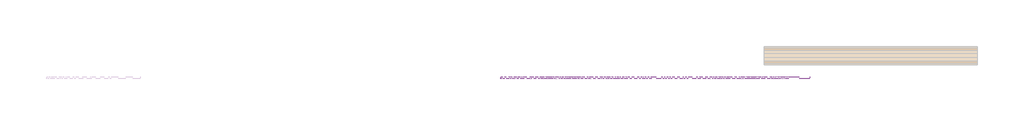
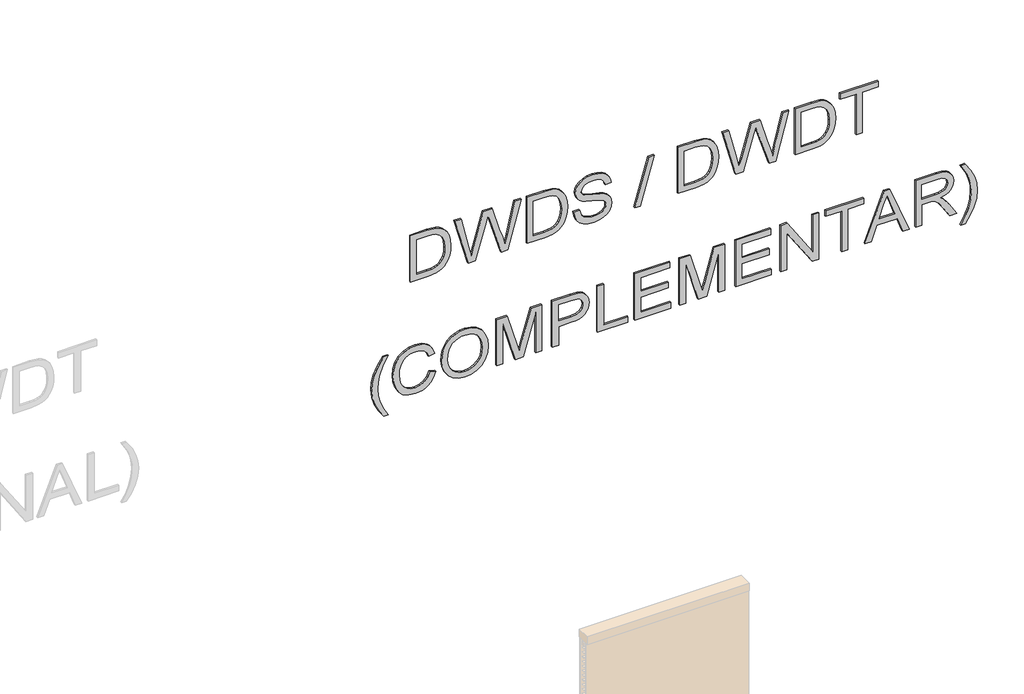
# One storey, part 7 of 7: 1 proxy.
"""IFC4 building model written with IfcOpenShell, lengths in millimetres."""

from ifc_helpers import new_model, si_unit, frame, origin, place, context, project, spatial, polyline, outline, extrude, element, save

model = new_model("IFC4")

# Units and contexts
model_context = context("Model", 3, world=origin())
ifc_project = project(units=[si_unit("LENGTHUNIT", "METRE", prefix="MILLI")], contexts=[model_context])

# Site, building, storey
site = spatial("IfcSite", under=ifc_project)
building = spatial("IfcBuilding", under=site)
storey = spatial("IfcBuildingStorey", under=building, Name="02 - Marelli - Planta Baixa - Painel Duplo", Elevation=-12000.0)

# Proxy
placement = place(None, origin())
element("IfcBuildingElementProxy", 1, Name="300mm Arial", ObjectType="300mm Arial", at=placement, inside=storey, context=model_context, shape_type="SweptSolid", body=[
    extrude(outline(polyline([(-6049.0625952, 52245.7423947), (-6049.0625952, 52354.7090417), (-6043.9122473, 52403.1591004), (-6037.5570858, 52422.7028314), (-6028.7922972, 52439.1747477), (-6016.9740882, 52453.5221456), (-6001.458665, 52466.692321), (-5981.8045694, 52478.133451), (-5957.570343, 52487.2937127), (-5929.1054736, 52493.3085833), (-5896.7594492, 52495.3135402), (-5858.6836627, 52492.3520901), (-5825.0960365, 52483.46774), (-5796.5483937, 52468.6237015), (-5773.5925572, 52447.7831864), (-5760.4039877, 52427.5128885), (-5752.0346723, 52403.4901942), (-5747.6936647, 52349.7058465), (-5747.6936647, 52245.7423947), (-6049.0625952, 52245.7423947)]), holes=[polyline([(-6011.3914789, 52283.413511), (-5785.364781, 52283.413511), (-5785.364781, 52349.0436589), (-5786.8730972, 52380.7918751), (-5791.3980458, 52402.4601246), (-5803.97961, 52423.7512951), (-5824.8017309, 52441.5659807), (-5855.1152073, 52453.6233131), (-5896.170838, 52457.6424239), (-5927.155699, 52455.5914818), (-5953.155759, 52449.4386554), (-5974.2629885, 52439.6070091), (-5990.5693579, 52426.5196071), (-5999.3801317, 52414.3427131), (-6005.9468253, 52398.5605755), (-6010.0303155, 52377.6464841), (-6011.3914789, 52350.0737285), (-6011.3914789, 52283.413511)])]), frame((0.0, 8778.3159498, 0.0), z_axis=(0.0, 1.0, 0.0), x_axis=(0.0, 0.0, 1.0)), (0.0, 0.0, 1.0), 10.0),
    extrude(outline(polyline([(-6049.0625952, 52601.0428256), (-6049.0625952, 52646.5130402), (-5823.1830501, 52712.3639174), (-5784.1139823, 52723.6946828), (-5816.5611742, 52733.7746495), (-6049.0625952, 52806.0266733), (-6049.0625952, 52846.2729636), (-5747.6936647, 52928.5313777), (-5747.6936647, 52889.683039), (-5947.5271645, 52841.5640741), (-6006.9033185, 52827.2902527), (-5951.5738665, 52813.5866483), (-5896.3915672, 52794.9902135), (-5747.6936647, 52751.5801381), (-5747.6936647, 52695.5884984), (-5952.8246652, 52635.8444624), (-6006.9033185, 52620.099113), (-5945.7613309, 52605.3838332), (-5747.6936647, 52557.7063266), (-5747.6936647, 52518.8579879), (-6049.0625952, 52601.0428256)])), frame((0.0, 8778.3159498, 0.0), z_axis=(0.0, 1.0, 0.0), x_axis=(0.0, 0.0, 1.0)), (0.0, 0.0, 1.0), 10.0),
    extrude(outline(polyline([(-6049.0625952, 52966.202494), (-6049.0625952, 53075.169141), (-6043.9122473, 53123.6191998), (-6037.5570858, 53143.1629308), (-6028.7922972, 53159.6348471), (-6016.9740882, 53173.9822449), (-6001.458665, 53187.1524203), (-5981.8045694, 53198.5935504), (-5957.570343, 53207.7538121), (-5929.1054736, 53213.7686827), (-5896.7594492, 53215.7736396), (-5858.6836627, 53212.8121895), (-5825.0960365, 53203.9278393), (-5796.5483937, 53189.0838008), (-5773.5925572, 53168.2432858), (-5760.4039877, 53147.9729879), (-5752.0346723, 53123.9502936), (-5747.6936647, 53070.1659459), (-5747.6936647, 52966.202494), (-6049.0625952, 52966.202494)]), holes=[polyline([(-6011.3914789, 53003.8736103), (-5785.364781, 53003.8736103), (-5785.364781, 53069.5037583), (-5786.8730972, 53101.2519745), (-5791.3980458, 53122.920224), (-5803.97961, 53144.2113945), (-5824.8017309, 53162.0260801), (-5855.1152073, 53174.0834125), (-5896.170838, 53178.1025233), (-5927.155699, 53176.0515811), (-5953.155759, 53169.8987548), (-5974.2629885, 53160.0671084), (-5990.5693579, 53146.9797065), (-5999.3801317, 53134.8028124), (-6005.9468253, 53119.0206748), (-6010.0303155, 53098.1065834), (-6011.3914789, 53070.5338279), (-6011.3914789, 53003.8736103)])]), frame((0.0, 8778.3159498, 0.0), z_axis=(0.0, 1.0, 0.0), x_axis=(0.0, 0.0, 1.0)), (0.0, 0.0, 1.0), 10.0),
    extrude(outline(polyline([(-5945.4670253, 53253.4447559), (-5975.8908663, 53257.9145221), (-6003.0037694, 53269.7051401), (-6025.2606301, 53288.0716487), (-6041.1163441, 53312.2690869), (-6050.6076996, 53342.6469427), (-6053.7714847, 53379.5547038), (-6050.8376258, 53409.6198599), (-6042.0360491, 53436.5396249), (-6027.9461687, 53458.9252443), (-6009.1473987, 53475.3879636), (-5987.3044052, 53485.5139155), (-5964.0818543, 53488.8892328), (-5941.3651411, 53485.9553739), (-5921.4811193, 53477.1537971), (-5904.6137298, 53462.1718029), (-5890.9469137, 53440.6966914), (-5882.1361399, 53415.5703511), (-5872.0377791, 53374.0364739), (-5861.4059894, 53333.7901836), (-5850.994929, 53312.5266043), (-5839.3514638, 53303.5318895), (-5824.8753073, 53300.5336513), (-5807.8975532, 53304.7642942), (-5793.6053377, 53317.456223), (-5783.8932531, 53339.400384), (-5780.6558915, 53371.3877235), (-5783.9300413, 53402.639299), (-5793.7524905, 53425.1720712), (-5809.9760865, 53439.5930454), (-5832.4536764, 53446.5092269), (-5832.4536764, 53484.1803432), (-5807.4928831, 53479.9313062), (-5785.2912046, 53469.2443342), (-5766.9890754, 53452.3585507), (-5753.7269295, 53429.5130788), (-5745.6703138, 53401.7011999), (-5742.9847752, 53369.9161955), (-5745.5507521, 53340.5776064), (-5753.2486829, 53314.0717087), (-5765.9038235, 53291.9895919), (-5783.3414301, 53275.9223458), (-5803.9152306, 53266.1274877), (-5825.9789533, 53262.8625349), (-5845.7158223, 53265.5020883), (-5863.4293404, 53273.4207482), (-5878.7884137, 53286.7104853), (-5891.4619484, 53305.46327), (-5900.5210426, 53328.5018799), (-5910.0399892, 53364.5083302), (-5924.4241752, 53419.3595357), (-5932.2324706, 53435.4359789), (-5941.530688, 53444.9641226), (-5952.4291921, 53449.654618), (-5965.0383475, 53451.2181165), (-5977.9785967, 53449.1303862), (-5990.3118406, 53442.8671952), (-6001.0539948, 53432.3365731), (-6009.2209751, 53417.4465493), (-6014.3805201, 53399.0708437), (-6016.1003684, 53378.0831758), (-6013.8286971, 53354.2444225), (-6007.0136831, 53332.9072668), (-5996.5106522, 53315.4512662), (-5983.1749298, 53303.255978), (-5966.3719197, 53295.4384856), (-5945.4670253, 53291.1158722), (-5945.4670253, 53253.4447559)])), frame((0.0, 8778.3159498, 0.0), z_axis=(0.0, 1.0, 0.0), x_axis=(0.0, 0.0, 1.0)), (0.0, 0.0, 1.0), 10.0),
    extrude(outline(polyline([(-6049.0625952, 53630.1559189), (-6049.0625952, 53664.1482153), (-5747.6936647, 53748.908227), (-5747.6936647, 53714.9159306), (-6049.0625952, 53630.1559189)])), frame((0.0, 8778.3159498, 0.0), z_axis=(0.0, 1.0, 0.0), x_axis=(0.0, 0.0, 1.0)), (0.0, 0.0, 1.0), 10.0),
    extrude(outline(polyline([(-6049.0625952, 53898.5626226), (-6049.0625952, 54007.5292696), (-6043.9122473, 54055.9793283), (-6037.5570858, 54075.5230593), (-6028.7922972, 54091.9949757), (-6016.9740882, 54106.3423735), (-6001.458665, 54119.5125489), (-5981.8045694, 54130.953679), (-5957.570343, 54140.1139406), (-5929.1054736, 54146.1288113), (-5896.7594492, 54148.1337681), (-5858.6836627, 54145.1723181), (-5825.0960365, 54136.2879679), (-5796.5483937, 54121.4439294), (-5773.5925572, 54100.6034144), (-5760.4039877, 54080.3331164), (-5752.0346723, 54056.3104221), (-5747.6936647, 54002.5260745), (-5747.6936647, 53898.5626226), (-6049.0625952, 53898.5626226)]), holes=[polyline([(-6011.3914789, 53936.2337389), (-5785.364781, 53936.2337389), (-5785.364781, 54001.8638869), (-5786.8730972, 54033.612103), (-5791.3980458, 54055.2803526), (-5803.97961, 54076.571523), (-5824.8017309, 54094.3862086), (-5855.1152073, 54106.443541), (-5896.170838, 54110.4626518), (-5927.155699, 54108.4117097), (-5953.155759, 54102.2588833), (-5974.2629885, 54092.427237), (-5990.5693579, 54079.339835), (-5999.3801317, 54067.162941), (-6005.9468253, 54051.3808034), (-6010.0303155, 54030.466712), (-6011.3914789, 54002.8939564), (-6011.3914789, 53936.2337389)])]), frame((0.0, 8778.3159498, 0.0), z_axis=(0.0, 1.0, 0.0), x_axis=(0.0, 0.0, 1.0)), (0.0, 0.0, 1.0), 10.0),
    extrude(outline(polyline([(-6049.0625952, 54253.8630536), (-6049.0625952, 54299.3332682), (-5823.1830501, 54365.1841453), (-5784.1139823, 54376.5149107), (-5816.5611742, 54386.5948774), (-6049.0625952, 54458.8469013), (-6049.0625952, 54499.0931915), (-5747.6936647, 54581.3516057), (-5747.6936647, 54542.503267), (-5947.5271645, 54494.384302), (-6006.9033185, 54480.1104806), (-5951.5738665, 54466.4068763), (-5896.3915672, 54447.8104414), (-5747.6936647, 54404.400366), (-5747.6936647, 54348.4087263), (-5952.8246652, 54288.6646903), (-6006.9033185, 54272.9193409), (-5945.7613309, 54258.2040611), (-5747.6936647, 54210.5265545), (-5747.6936647, 54171.6782158), (-6049.0625952, 54253.8630536)])), frame((0.0, 8778.3159498, 0.0), z_axis=(0.0, 1.0, 0.0), x_axis=(0.0, 0.0, 1.0)), (0.0, 0.0, 1.0), 10.0),
    extrude(outline(polyline([(-6049.0625952, 54619.022722), (-6049.0625952, 54727.9893689), (-6043.9122473, 54776.4394277), (-6037.5570858, 54795.9831587), (-6028.7922972, 54812.455075), (-6016.9740882, 54826.8024728), (-6001.458665, 54839.9726483), (-5981.8045694, 54851.4137783), (-5957.570343, 54860.57404), (-5929.1054736, 54866.5889106), (-5896.7594492, 54868.5938675), (-5858.6836627, 54865.6324174), (-5825.0960365, 54856.7480673), (-5796.5483937, 54841.9040287), (-5773.5925572, 54821.0635137), (-5760.4039877, 54800.7932158), (-5752.0346723, 54776.7705215), (-5747.6936647, 54722.9861738), (-5747.6936647, 54619.022722), (-6049.0625952, 54619.022722)]), holes=[polyline([(-6011.3914789, 54656.6938383), (-5785.364781, 54656.6938383), (-5785.364781, 54722.3239862), (-5786.8730972, 54754.0722024), (-5791.3980458, 54775.7404519), (-5803.97961, 54797.0316224), (-5824.8017309, 54814.846308), (-5855.1152073, 54826.9036404), (-5896.170838, 54830.9227512), (-5927.155699, 54828.8718091), (-5953.155759, 54822.7189827), (-5974.2629885, 54812.8873364), (-5990.5693579, 54799.7999344), (-5999.3801317, 54787.6230404), (-6005.9468253, 54771.8409028), (-6010.0303155, 54750.9268113), (-6011.3914789, 54723.3540558), (-6011.3914789, 54656.6938383)])]), frame((0.0, 8778.3159498, 0.0), z_axis=(0.0, 1.0, 0.0), x_axis=(0.0, 0.0, 1.0)), (0.0, 0.0, 1.0), 10.0),
    extrude(outline(polyline([(-6049.0625952, 54995.733885), (-6049.0625952, 55033.4050013), (-5785.364781, 55033.4050013), (-5785.364781, 55132.2916816), (-5747.6936647, 55132.2916816), (-5747.6936647, 54896.8472047), (-5785.364781, 54896.8472047), (-5785.364781, 54995.733885), (-6049.0625952, 54995.733885)])), frame((0.0, 8778.3159498, 0.0), z_axis=(0.0, 1.0, 0.0), x_axis=(0.0, 0.0, 1.0)), (0.0, 0.0, 1.0), 10.0),
    extrude(outline(polyline([(-6865.6715139, 52080.9312608), (-6865.6715139, 52109.1845981), (-6817.4329873, 52080.3426497), (-6769.1760666, 52059.7412579), (-6720.9007518, 52047.3804229), (-6672.6070429, 52043.2601445), (-6634.7335915, 52045.6329834), (-6597.0440811, 52052.7515), (-6539.2130314, 52073.9415029), (-6479.5425718, 52109.1845981), (-6479.5425718, 52080.9312608), (-6530.0527697, 52046.2399887), (-6580.7836969, 52021.9229888), (-6625.5733298, 52009.6725184), (-6672.3863137, 52005.5890282), (-6725.7659912, 52011.0520759), (-6777.3062587, 52027.4412187), (-6824.7078538, 52051.7398245), (-6865.6715139, 52080.9312608)])), frame((0.0, 8778.3159498, 0.0), z_axis=(0.0, 1.0, 0.0), x_axis=(0.0, 0.0, 1.0)), (0.0, 0.0, 1.0), 10.0),
    extrude(outline(polyline([(-6673.7842653, 52363.4646331), (-6706.0475162, 52351.278542), (-6729.2608701, 52331.4956878), (-6743.2771741, 52305.2932927), (-6747.9492755, 52273.8485791), (-6744.5187759, 52246.8736318), (-6734.2272771, 52221.8668532), (-6717.0012026, 52201.0079441), (-6692.7669762, 52186.4766053), (-6662.674229, 52177.95094), (-6627.8725923, 52175.1090516), (-6599.4537081, 52177.5094816), (-6571.8809526, 52184.7107717), (-6547.4903763, 52197.8349619), (-6528.61803, 52218.0040922), (-6516.5331064, 52244.5835664), (-6512.5047986, 52276.9387879), (-6516.1376333, 52305.0081841), (-6527.0361374, 52327.853656), (-6545.8808926, 52345.6959328), (-6573.3524806, 52358.7557436), (-6564.3761599, 52396.4268599), (-6526.5578908, 52379.7893967), (-6511.2356057, 52367.9872824), (-6498.3045536, 52353.8629131), (-6488.0360474, 52337.6830031), (-6480.7014001, 52319.7142669), (-6474.8336823, 52278.4103159), (-6479.3678279, 52240.5552586), (-6492.9702646, 52206.0111392), (-6515.3098988, 52176.8840822), (-6546.0556365, 52155.2802121), (-6584.0026643, 52141.8985045), (-6627.9461687, 52137.4379353), (-6669.6088046, 52141.3834697), (-6708.5123256, 52153.2200729), (-6741.6033111, 52172.607454), (-6765.8283405, 52199.2053223), (-6780.672379, 52233.9057915), (-6785.6203918, 52277.6009755), (-6783.9856162, 52300.0233831), (-6779.0812893, 52320.6431689), (-6770.9074112, 52339.460333), (-6759.4639819, 52356.4748752), (-6744.9073512, 52371.3511034), (-6727.393869, 52383.7533252), (-6706.9235352, 52393.6815405), (-6683.4963499, 52401.1357494), (-6673.7842653, 52363.4646331)])), frame((0.0, 8778.3159498, 0.0), z_axis=(0.0, 1.0, 0.0), x_axis=(0.0, 0.0, 1.0)), (0.0, 0.0, 1.0), 10.0),
    extrude(outline(polyline([(-6634.2001626, 52438.8068658), (-6672.7449986, 52443.1110851), (-6709.2113014, 52456.0237431), (-6740.9043353, 52477.2873224), (-6765.1293647, 52506.6443057), (-6780.497635, 52542.292071), (-6785.6203918, 52582.4279967), (-6780.9850787, 52620.2370687), (-6767.0791392, 52655.3789963), (-6744.1600909, 52685.3429848), (-6712.4854512, 52707.6182396), (-6674.0233886, 52721.4414056), (-6630.7420718, 52726.0491276), (-6588.0309722, 52721.6713318), (-6550.1023385, 52708.5379446), (-6518.482881, 52687.0536361), (-6494.69931, 52657.6230765), (-6479.8000892, 52622.1776462), (-6474.8336823, 52582.6487259), (-6477.4778341, 52552.3582421), (-6485.4102896, 52524.9832231), (-6498.6310488, 52500.523669), (-6517.1401117, 52478.9795796), (-6540.3212759, 52461.4040173), (-6567.5583392, 52448.8500442), (-6598.8513014, 52441.3176604), (-6634.2001626, 52438.8068658)]), holes=[polyline([(-6634.5680446, 52476.4779821), (-6604.0315397, 52478.4415522), (-6578.1993259, 52484.3322627), (-6557.071403, 52494.1501134), (-6540.6477712, 52507.8951044), (-6528.3352207, 52524.3624223), (-6519.5405417, 52542.3472533), (-6514.2637344, 52561.8495976), (-6512.5047986, 52582.8694551), (-6516.1560274, 52612.0333002), (-6527.1097138, 52638.1621189), (-6544.7036702, 52659.8211714), (-6568.275709, 52675.5757178), (-6597.0992634, 52685.1774379), (-6630.4477662, 52688.3780113), (-6656.9858537, 52686.5087109), (-6680.3141707, 52680.9008097), (-6700.4327173, 52671.5543078), (-6717.3414935, 52658.4692051), (-6730.7323981, 52642.4870316), (-6740.29733, 52624.4493176), (-6746.0362891, 52604.3560628), (-6747.9492755, 52582.2072675), (-6746.0546832, 52560.4309526), (-6740.3709064, 52540.5722227), (-6730.897945, 52522.6310776), (-6717.6357991, 52506.6075175), (-6701.0765108, 52493.4258457), (-6681.7121223, 52484.0103659), (-6659.5426335, 52478.361078), (-6634.5680446, 52476.4779821)])]), frame((0.0, 8778.3159498, 0.0), z_axis=(0.0, 1.0, 0.0), x_axis=(0.0, 0.0, 1.0)), (0.0, 0.0, 1.0), 10.0),
    extrude(outline(polyline([(-6780.9115023, 52777.8469125), (-6780.9115023, 52815.5180288), (-6517.2136881, 52815.5180288), (-6780.9115023, 52891.2281434), (-6780.9115023, 52942.2901644), (-6517.2136881, 53018.000279), (-6780.9115023, 53018.000279), (-6780.9115023, 53055.6713953), (-6479.5425718, 53055.6713953), (-6479.5425718, 52990.8505877), (-6688.2788159, 52930.2236349), (-6736.3242044, 52916.7591539), (-6691.9576358, 52904.3247424), (-6479.5425718, 52842.6677201), (-6479.5425718, 52777.8469125), (-6780.9115023, 52777.8469125)])), frame((0.0, 8778.3159498, 0.0), z_axis=(0.0, 1.0, 0.0), x_axis=(0.0, 0.0, 1.0)), (0.0, 0.0, 1.0), 10.0),
    extrude(outline(polyline([(-6780.9115023, 53121.5958488), (-6780.9115023, 53159.2669651), (-6658.4803743, 53159.2669651), (-6658.4803743, 53235.8599965), (-6656.8157082, 53265.0583306), (-6651.8217101, 53289.3776298), (-6643.49838, 53308.8178939), (-6631.8457178, 53323.3791232), (-6617.7880271, 53333.9856209), (-6602.2496113, 53341.5616908), (-6585.2304705, 53346.1073327), (-6566.7306047, 53347.6225466), (-6545.2738873, 53345.3784665), (-6525.6381858, 53338.646226), (-6508.9915255, 53328.2259684), (-6496.5019318, 53314.9178373), (-6487.7739314, 53298.3907386), (-6482.4120514, 53278.3135787), (-6479.5425718, 53233.2848225), (-6479.5425718, 53121.5958488), (-6780.9115023, 53121.5958488)]), holes=[polyline([(-6620.809258, 53159.2669651), (-6517.2136881, 53159.2669651), (-6517.2136881, 53237.1843717), (-6519.7888621, 53274.855488), (-6526.1164324, 53289.0833242), (-6536.8585867, 53300.2761339), (-6551.1324081, 53307.5326062), (-6568.0549798, 53309.9514303), (-6590.3302347, 53305.8495461), (-6606.9768949, 53293.5438933), (-6617.3511672, 53271.4709736), (-6620.809258, 53238.0672885), (-6620.809258, 53159.2669651)])]), frame((0.0, 8778.3159498, 0.0), z_axis=(0.0, 1.0, 0.0), x_axis=(0.0, 0.0, 1.0)), (0.0, 0.0, 1.0), 10.0),
    extrude(outline(polyline([(-6780.9115023, 53399.4203316), (-6780.9115023, 53587.7759131), (-6743.2403859, 53587.7759131), (-6743.2403859, 53437.0914479), (-6479.5425718, 53437.0914479), (-6479.5425718, 53399.4203316), (-6780.9115023, 53399.4203316)])), frame((0.0, 8778.3159498, 0.0), z_axis=(0.0, 1.0, 0.0), x_axis=(0.0, 0.0, 1.0)), (0.0, 0.0, 1.0), 10.0),
    extrude(outline(polyline([(-6780.9115023, 53630.1559189), (-6780.9115023, 53851.4737272), (-6743.2403859, 53851.4737272), (-6743.2403859, 53667.8270352), (-6644.3537056, 53667.8270352), (-6644.3537056, 53837.3470586), (-6606.6825893, 53837.3470586), (-6606.6825893, 53667.8270352), (-6517.2136881, 53667.8270352), (-6517.2136881, 53846.7648377), (-6479.5425718, 53846.7648377), (-6479.5425718, 53630.1559189), (-6780.9115023, 53630.1559189)])), frame((0.0, 8778.3159498, 0.0), z_axis=(0.0, 1.0, 0.0), x_axis=(0.0, 0.0, 1.0)), (0.0, 0.0, 1.0), 10.0),
    extrude(outline(polyline([(-6780.9115023, 53907.9804017), (-6780.9115023, 53945.651518), (-6517.2136881, 53945.651518), (-6780.9115023, 54021.3616326), (-6780.9115023, 54072.4236535), (-6517.2136881, 54148.1337681), (-6780.9115023, 54148.1337681), (-6780.9115023, 54185.8048844), (-6479.5425718, 54185.8048844), (-6479.5425718, 54120.9840769), (-6688.2788159, 54060.3571241), (-6736.3242044, 54046.8926431), (-6691.9576358, 54034.4582316), (-6479.5425718, 53972.8012092), (-6479.5425718, 53907.9804017), (-6780.9115023, 53907.9804017)])), frame((0.0, 8778.3159498, 0.0), z_axis=(0.0, 1.0, 0.0), x_axis=(0.0, 0.0, 1.0)), (0.0, 0.0, 1.0), 10.0),
    extrude(outline(polyline([(-6780.9115023, 54251.729338), (-6780.9115023, 54473.0471463), (-6743.2403859, 54473.0471463), (-6743.2403859, 54289.4004543), (-6644.3537056, 54289.4004543), (-6644.3537056, 54458.9204777), (-6606.6825893, 54458.9204777), (-6606.6825893, 54289.4004543), (-6517.2136881, 54289.4004543), (-6517.2136881, 54468.3382567), (-6479.5425718, 54468.3382567), (-6479.5425718, 54251.729338), (-6780.9115023, 54251.729338)])), frame((0.0, 8778.3159498, 0.0), z_axis=(0.0, 1.0, 0.0), x_axis=(0.0, 0.0, 1.0)), (0.0, 0.0, 1.0), 10.0),
    extrude(outline(polyline([(-6780.9115023, 54529.5538207), (-6780.9115023, 54567.224937), (-6542.082511, 54567.224937), (-6780.9115023, 54724.678431), (-6780.9115023, 54764.9982977), (-6479.5425718, 54764.9982977), (-6479.5425718, 54727.3271813), (-6718.2979867, 54727.3271813), (-6479.5425718, 54569.8736874), (-6479.5425718, 54529.5538207), (-6780.9115023, 54529.5538207)])), frame((0.0, 8778.3159498, 0.0), z_axis=(0.0, 1.0, 0.0), x_axis=(0.0, 0.0, 1.0)), (0.0, 0.0, 1.0), 10.0),
    extrude(outline(polyline([(-6780.9115023, 54906.2649838), (-6780.9115023, 54943.9361001), (-6517.2136881, 54943.9361001), (-6517.2136881, 55042.8227804), (-6479.5425718, 55042.8227804), (-6479.5425718, 54807.3783035), (-6517.2136881, 54807.3783035), (-6517.2136881, 54906.2649838), (-6780.9115023, 54906.2649838)])), frame((0.0, 8778.3159498, 0.0), z_axis=(0.0, 1.0, 0.0), x_axis=(0.0, 0.0, 1.0)), (0.0, 0.0, 1.0), 10.0),
    extrude(outline(polyline([(-6780.9115023, 55050.1068439), (-6780.9115023, 55089.9116758), (-6686.7337115, 55124.3454305), (-6686.7337115, 55248.4688157), (-6780.9115023, 55282.9761469), (-6780.9115023, 55322.7809787), (-6479.5425718, 55202.4835663), (-6479.5425718, 55170.4042563), (-6780.9115023, 55050.1068439)]), holes=[polyline([(-6649.0625952, 55138.1777936), (-6568.4964382, 55167.6819296), (-6517.2136881, 55186.4439113), (-6574.9711614, 55207.5603379), (-6649.0625952, 55234.7100291), (-6649.0625952, 55138.1777936)])]), frame((0.0, 8778.3159498, 0.0), z_axis=(0.0, 1.0, 0.0), x_axis=(0.0, 0.0, 1.0)), (0.0, 0.0, 1.0), 10.0),
    extrude(outline(polyline([(-6780.9115023, 55363.027269), (-6780.9115023, 55400.6983853), (-6649.0625952, 55400.6983853), (-6649.0625952, 55446.1685999), (-6650.3869704, 55468.0207904), (-6657.5606693, 55485.9366436), (-6677.0952032, 55505.8390595), (-6718.4451395, 55534.1659732), (-6780.9115023, 55573.3821939), (-6780.9115023, 55617.1601513), (-6699.2416993, 55566.9074707), (-6660.466937, 55536.3732651), (-6644.3537056, 55514.962533), (-6634.3657095, 55552.0726293), (-6626.3504805, 55566.454516), (-6616.3210976, 55578.0542952), (-6591.7097921, 55593.3673832), (-6562.0217151, 55598.4717459), (-6538.1553707, 55595.3907342), (-6516.4411359, 55586.1476991), (-6498.929953, 55571.745119), (-6487.6727639, 55553.1854723), (-6481.5751198, 55527.7924176), (-6479.5425718, 55492.8896133), (-6479.5425718, 55363.027269), (-6780.9115023, 55363.027269)]), holes=[polyline([(-6611.3914789, 55400.6983853), (-6517.2136881, 55400.6983853), (-6517.2136881, 55494.5082941), (-6520.4694438, 55524.3159327), (-6530.2367107, 55544.8713392), (-6545.043961, 55556.818307), (-6563.4196667, 55560.8006296), (-6576.7277979, 55558.7128993), (-6588.9874654, 55552.4497083), (-6599.1226143, 55542.1674066), (-6606.0571899, 55528.0223438), (-6610.0579066, 55509.2327709), (-6611.3914789, 55485.0169386), (-6611.3914789, 55400.6983853)])]), frame((0.0, 8778.3159498, 0.0), z_axis=(0.0, 1.0, 0.0), x_axis=(0.0, 0.0, 1.0)), (0.0, 0.0, 1.0), 10.0),
    extrude(outline(polyline([(-6865.6715139, 55669.105089), (-6824.7078538, 55698.1585696), (-6777.3062587, 55722.4847665), (-6725.7659912, 55738.9566828), (-6672.3863137, 55744.4473216), (-6625.5733298, 55740.3638315), (-6580.7836969, 55728.113361), (-6530.0527697, 55703.7963611), (-6479.5425718, 55669.105089), (-6479.5425718, 55640.8517518), (-6539.8016426, 55676.3155761), (-6568.1469503, 55688.290135), (-6597.7062687, 55697.2848498), (-6635.009503, 55704.4033664), (-6672.6070429, 55706.7762053), (-6720.9007518, 55702.655927), (-6769.1760666, 55690.2950919), (-6817.4329873, 55669.6937002), (-6865.6715139, 55640.8517518), (-6865.6715139, 55669.105089)])), frame((0.0, 8778.3159498, 0.0), z_axis=(0.0, 1.0, 0.0), x_axis=(0.0, 0.0, 1.0)), (0.0, 0.0, 1.0), 10.0),
])

save(model, "model.ifc")
